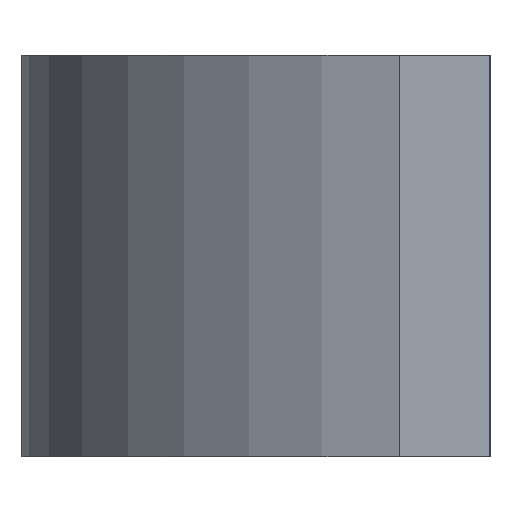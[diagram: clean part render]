
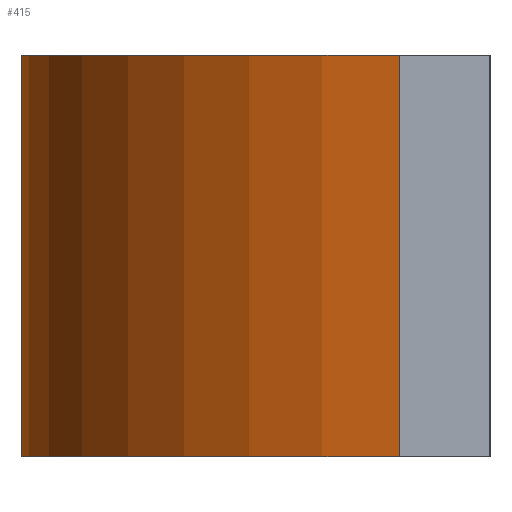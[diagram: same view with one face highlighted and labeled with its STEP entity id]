
A CAD part, left-side view. The second image highlights one B-rep face of the part: STEP entity #415.
In plain terms, the highlighted cylindrical face has radius 17.5 mm (diameter 35 mm), a partial arc.
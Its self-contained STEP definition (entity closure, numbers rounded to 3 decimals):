
#58=FACE_OUTER_BOUND('',#88,.T.);
#88=EDGE_LOOP('',(#370,#371,#372,#373));
#114=LINE('',#651,#156);
#132=LINE('',#690,#174);
#156=VECTOR('',#536,10.);
#174=VECTOR('',#570,10.);
#186=CIRCLE('',#463,17.5);
#187=CIRCLE('',#464,17.5);
#209=VERTEX_POINT('',#647);
#211=VERTEX_POINT('',#650);
#223=VERTEX_POINT('',#686);
#224=VERTEX_POINT('',#688);
#257=EDGE_CURVE('',#209,#211,#114,.T.);
#277=EDGE_CURVE('',#223,#224,#132,.T.);
#278=EDGE_CURVE('',#209,#223,#186,.T.);
#279=EDGE_CURVE('',#211,#224,#187,.T.);
#370=ORIENTED_EDGE('',*,*,#278,.T.);
#371=ORIENTED_EDGE('',*,*,#277,.T.);
#372=ORIENTED_EDGE('',*,*,#279,.F.);
#373=ORIENTED_EDGE('',*,*,#257,.F.);
#395=CYLINDRICAL_SURFACE('',#462,17.5);
#415=ADVANCED_FACE('',(#58),#395,.T.);
#462=AXIS2_PLACEMENT_3D('',#691,#571,#572);
#463=AXIS2_PLACEMENT_3D('',#692,#573,#574);
#464=AXIS2_PLACEMENT_3D('',#693,#575,#576);
#536=DIRECTION('',(0.,0.,1.));
#570=DIRECTION('',(0.,0.,1.));
#571=DIRECTION('center_axis',(0.,0.,1.));
#572=DIRECTION('ref_axis',(0.983,0.185,0.));
#573=DIRECTION('center_axis',(0.,0.,1.));
#574=DIRECTION('ref_axis',(0.983,0.185,0.));
#575=DIRECTION('center_axis',(0.,0.,1.));
#576=DIRECTION('ref_axis',(0.983,0.185,0.));
#647=CARTESIAN_POINT('',(-6.801,3.232,0.));
#650=CARTESIAN_POINT('',(-6.801,3.232,15.));
#651=CARTESIAN_POINT('',(-6.801,3.232,0.));
#686=CARTESIAN_POINT('',(-41.169,3.385,0.));
#688=CARTESIAN_POINT('',(-41.169,3.385,15.));
#690=CARTESIAN_POINT('',(-41.169,3.385,0.));
#691=CARTESIAN_POINT('Origin',(-24.,0.,0.));
#692=CARTESIAN_POINT('Origin',(-24.,0.,0.));
#693=CARTESIAN_POINT('Origin',(-24.,0.,15.));
